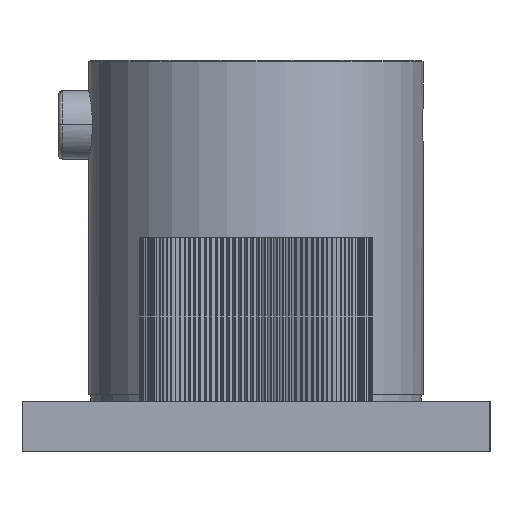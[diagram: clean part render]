
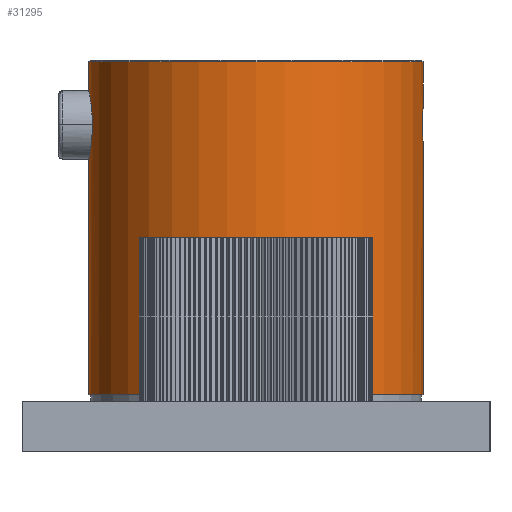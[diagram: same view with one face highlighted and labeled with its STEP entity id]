
A CAD part, left-side view. The second image highlights one B-rep face of the part: STEP entity #31295.
In plain terms, the highlighted cylindrical face has radius 25 mm (diameter 50 mm), a partial arc.
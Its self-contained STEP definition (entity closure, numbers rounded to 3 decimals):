
#9456=DIRECTION('',(0.,0.,1.));
#9457=VECTOR('',#9456,35.25);
#9458=CARTESIAN_POINT('',(0.,25.,78.6));
#9459=LINE('',#9458,#9457);
#9507=DIRECTION('',(0.,0.,1.));
#9508=VECTOR('',#9507,4.35);
#9509=CARTESIAN_POINT('',(0.,25.,124.05));
#9510=LINE('',#9509,#9508);
#9515=CARTESIAN_POINT('',(-5.1,24.474,118.95));
#9516=CARTESIAN_POINT('',(-5.1,24.474,119.082));
#9517=CARTESIAN_POINT('',(-5.09,24.476,119.347));
#9518=CARTESIAN_POINT('',(-5.043,24.486,119.742));
#9519=CARTESIAN_POINT('',(-4.966,24.502,120.132));
#9520=CARTESIAN_POINT('',(-4.859,24.523,120.517));
#9521=CARTESIAN_POINT('',(-4.721,24.55,120.893));
#9522=CARTESIAN_POINT('',(-4.554,24.582,121.258));
#9523=CARTESIAN_POINT('',(-4.358,24.618,121.609));
#9524=CARTESIAN_POINT('',(-4.134,24.656,121.945));
#9525=CARTESIAN_POINT('',(-3.885,24.697,122.263));
#9526=CARTESIAN_POINT('',(-3.61,24.739,122.56));
#9527=CARTESIAN_POINT('',(-3.313,24.78,122.834));
#9528=CARTESIAN_POINT('',(-2.996,24.821,123.084));
#9529=CARTESIAN_POINT('',(-2.66,24.859,123.308));
#9530=CARTESIAN_POINT('',(-2.309,24.894,123.503));
#9531=CARTESIAN_POINT('',(-1.943,24.925,123.671));
#9532=CARTESIAN_POINT('',(-1.568,24.952,123.808));
#9533=CARTESIAN_POINT('',(-1.183,24.973,123.916));
#9534=CARTESIAN_POINT('',(-0.793,24.988,
123.993));
#9535=CARTESIAN_POINT('',(-0.397,24.998,
124.04));
#9536=CARTESIAN_POINT('',(-0.133,25.,124.05));
#9537=CARTESIAN_POINT('',(0.,25.,124.05));
#9539=CARTESIAN_POINT('',(0.,0.,128.4));
#9540=DIRECTION('',(0.,0.,1.));
#9541=DIRECTION('',(0.,1.,0.));
#9542=AXIS2_PLACEMENT_3D('',#9539,#9540,#9541);
#9544=DIRECTION('',(0.,0.,1.));
#9545=VECTOR('',#9544,6.8);
#9546=CARTESIAN_POINT('',(0.,-25.,121.6));
#9547=LINE('',#9546,#9545);
#9548=CARTESIAN_POINT('',(0.,-25.,121.6));
#9549=CARTESIAN_POINT('',(-0.084,-25.,121.6));
#9550=CARTESIAN_POINT('',(-0.252,-24.999,
121.592));
#9551=CARTESIAN_POINT('',(-0.501,-24.995,
121.556));
#9552=CARTESIAN_POINT('',(-0.746,-24.989,
121.497));
#9553=CARTESIAN_POINT('',(-0.985,-24.981,
121.415));
#9554=CARTESIAN_POINT('',(-1.215,-24.971,
121.31));
#9555=CARTESIAN_POINT('',(-1.434,-24.959,
121.183));
#9556=CARTESIAN_POINT('',(-1.64,-24.946,
121.037));
#9557=CARTESIAN_POINT('',(-1.831,-24.933,
120.871));
#9558=CARTESIAN_POINT('',(-2.006,-24.92,
120.688));
#9559=CARTESIAN_POINT('',(-2.162,-24.906,
120.489));
#9560=CARTESIAN_POINT('',(-2.299,-24.894,
120.276));
#9561=CARTESIAN_POINT('',(-2.415,-24.883,
120.051));
#9562=CARTESIAN_POINT('',(-2.509,-24.874,
119.817));
#9563=CARTESIAN_POINT('',(-2.579,-24.867,
119.574));
#9564=CARTESIAN_POINT('',(-2.627,-24.862,
119.327));
#9565=CARTESIAN_POINT('',(-2.651,-24.859,
119.076));
#9566=CARTESIAN_POINT('',(-2.651,-24.859,
118.824));
#9567=CARTESIAN_POINT('',(-2.627,-24.862,
118.573));
#9568=CARTESIAN_POINT('',(-2.579,-24.867,
118.326));
#9569=CARTESIAN_POINT('',(-2.509,-24.874,
118.083));
#9570=CARTESIAN_POINT('',(-2.415,-24.883,
117.849));
#9571=CARTESIAN_POINT('',(-2.299,-24.894,
117.624));
#9572=CARTESIAN_POINT('',(-2.162,-24.906,
117.411));
#9573=CARTESIAN_POINT('',(-2.006,-24.92,
117.212));
#9574=CARTESIAN_POINT('',(-1.831,-24.933,
117.029));
#9575=CARTESIAN_POINT('',(-1.64,-24.946,
116.863));
#9576=CARTESIAN_POINT('',(-1.434,-24.959,
116.717));
#9577=CARTESIAN_POINT('',(-1.215,-24.971,
116.59));
#9578=CARTESIAN_POINT('',(-0.985,-24.981,
116.485));
#9579=CARTESIAN_POINT('',(-0.746,-24.989,
116.403));
#9580=CARTESIAN_POINT('',(-0.501,-24.995,
116.344));
#9581=CARTESIAN_POINT('',(-0.252,-24.999,
116.308));
#9582=CARTESIAN_POINT('',(-0.084,-25.,116.3));
#9583=CARTESIAN_POINT('',(0.,-25.,116.3));
#9585=DIRECTION('',(0.,0.,1.));
#9586=VECTOR('',#9585,37.7);
#9587=CARTESIAN_POINT('',(0.,-25.,78.6));
#9588=LINE('',#9587,#9586);
#9589=CARTESIAN_POINT('',(0.,0.,78.6));
#9590=DIRECTION('',(0.,0.,-1.));
#9591=DIRECTION('',(0.,-1.,0.));
#9592=AXIS2_PLACEMENT_3D('',#9589,#9590,#9591);
#9594=CARTESIAN_POINT('',(0.,25.,113.85));
#9595=CARTESIAN_POINT('',(-0.133,25.,113.85));
#9596=CARTESIAN_POINT('',(-0.397,24.998,
113.86));
#9597=CARTESIAN_POINT('',(-0.793,24.988,
113.907));
#9598=CARTESIAN_POINT('',(-1.183,24.973,113.984));
#9599=CARTESIAN_POINT('',(-1.568,24.952,114.092));
#9600=CARTESIAN_POINT('',(-1.943,24.925,114.229));
#9601=CARTESIAN_POINT('',(-2.309,24.894,114.397));
#9602=CARTESIAN_POINT('',(-2.66,24.859,114.592));
#9603=CARTESIAN_POINT('',(-2.996,24.821,114.816));
#9604=CARTESIAN_POINT('',(-3.313,24.78,115.066));
#9605=CARTESIAN_POINT('',(-3.61,24.739,115.34));
#9606=CARTESIAN_POINT('',(-3.885,24.697,115.637));
#9607=CARTESIAN_POINT('',(-4.134,24.656,115.955));
#9608=CARTESIAN_POINT('',(-4.358,24.618,116.291));
#9609=CARTESIAN_POINT('',(-4.554,24.582,116.642));
#9610=CARTESIAN_POINT('',(-4.721,24.55,117.007));
#9611=CARTESIAN_POINT('',(-4.859,24.523,117.383));
#9612=CARTESIAN_POINT('',(-4.966,24.502,117.768));
#9613=CARTESIAN_POINT('',(-5.043,24.486,118.158));
#9614=CARTESIAN_POINT('',(-5.09,24.476,118.553));
#9615=CARTESIAN_POINT('',(-5.1,24.474,118.818));
#9616=CARTESIAN_POINT('',(-5.1,24.474,118.95));
#10210=CARTESIAN_POINT('',(0.,-25.,128.4));
#10211=VERTEX_POINT('',#10210);
#10212=CARTESIAN_POINT('',(0.,25.,128.4));
#10213=VERTEX_POINT('',#10212);
#10214=CARTESIAN_POINT('',(0.,-25.,78.6));
#10215=CARTESIAN_POINT('',(0.,-25.,116.3));
#10216=VERTEX_POINT('',#10214);
#10217=VERTEX_POINT('',#10215);
#10218=CARTESIAN_POINT('',(0.,-25.,121.6));
#10219=VERTEX_POINT('',#10218);
#11806=VERTEX_POINT('',#9515);
#11807=VERTEX_POINT('',#9537);
#11808=VERTEX_POINT('',#9594);
#11818=CARTESIAN_POINT('',(0.,25.,78.6));
#11819=VERTEX_POINT('',#11818);
#31276=CARTESIAN_POINT('',(0.,0.,128.4));
#31277=DIRECTION('',(0.,0.,-1.));
#31278=DIRECTION('',(1.,0.,0.));
#31279=AXIS2_PLACEMENT_3D('',#31276,#31277,#31278);
#31280=CYLINDRICAL_SURFACE('',#31279,25.);
#31281=ORIENTED_EDGE('',*,*,#31257,.T.);
#31282=ORIENTED_EDGE('',*,*,#31240,.T.);
#31284=ORIENTED_EDGE('',*,*,#31283,.T.);
#31285=ORIENTED_EDGE('',*,*,#31236,.F.);
#31287=ORIENTED_EDGE('',*,*,#31286,.T.);
#31288=ORIENTED_EDGE('',*,*,#31232,.F.);
#31289=ORIENTED_EDGE('',*,*,#31204,.T.);
#31290=ORIENTED_EDGE('',*,*,#31229,.T.);
#31292=ORIENTED_EDGE('',*,*,#31291,.T.);
#31293=EDGE_LOOP('',(#31281,#31282,#31284,#31285,#31287,#31288,#31289,#31290,
#31292));
#31294=FACE_OUTER_BOUND('',#31293,.F.);
#9538=B_SPLINE_CURVE_WITH_KNOTS('',3,(#9515,#9516,#9517,#9518,#9519,#9520,#9521,
#9522,#9523,#9524,#9525,#9526,#9527,#9528,#9529,#9530,#9531,#9532,#9533,#9534,
#9535,#9536,#9537),.UNSPECIFIED.,.F.,.F.,(4,1,1,1,1,1,1,1,1,1,1,1,1,1,1,1,1,1,1,
1,4),(0.,0.05,0.1,0.15,0.2,0.25,0.3,0.35,0.4,0.45,0.5,
0.55,0.6,0.65,0.7,0.75,0.8,0.85,0.9,0.95,1.),.UNSPECIFIED.);
#9543=CIRCLE('',#9542,25.);
#9584=B_SPLINE_CURVE_WITH_KNOTS('',3,(#9548,#9549,#9550,#9551,#9552,#9553,#9554,
#9555,#9556,#9557,#9558,#9559,#9560,#9561,#9562,#9563,#9564,#9565,#9566,#9567,
#9568,#9569,#9570,#9571,#9572,#9573,#9574,#9575,#9576,#9577,#9578,#9579,#9580,
#9581,#9582,#9583),.UNSPECIFIED.,.F.,.F.,(4,1,1,1,1,1,1,1,1,1,1,1,1,1,1,1,1,1,1,
1,1,1,1,1,1,1,1,1,1,1,1,1,1,4),(0.,0.03,0.061,
0.091,0.121,0.152,0.182,
0.212,0.242,0.273,0.303,
0.333,0.364,0.394,0.424,
0.455,0.485,0.515,0.545,
0.576,0.606,0.636,0.667,
0.697,0.727,0.758,0.788,
0.818,0.848,0.879,0.909,
0.939,0.97,1.),.UNSPECIFIED.);
#9593=CIRCLE('',#9592,25.);
#9617=B_SPLINE_CURVE_WITH_KNOTS('',3,(#9594,#9595,#9596,#9597,#9598,#9599,#9600,
#9601,#9602,#9603,#9604,#9605,#9606,#9607,#9608,#9609,#9610,#9611,#9612,#9613,
#9614,#9615,#9616),.UNSPECIFIED.,.F.,.F.,(4,1,1,1,1,1,1,1,1,1,1,1,1,1,1,1,1,1,1,
1,4),(0.,0.05,0.1,0.15,0.2,0.25,0.3,0.35,0.4,0.45,0.5,
0.55,0.6,0.65,0.7,0.75,0.8,0.85,0.9,0.95,1.),.UNSPECIFIED.);
#31204=EDGE_CURVE('',#10216,#11819,#9593,.T.);
#31229=EDGE_CURVE('',#11819,#11808,#9459,.T.);
#31232=EDGE_CURVE('',#10216,#10217,#9588,.T.);
#31236=EDGE_CURVE('',#10219,#10211,#9547,.T.);
#31240=EDGE_CURVE('',#11807,#10213,#9510,.T.);
#31257=EDGE_CURVE('',#11806,#11807,#9538,.T.);
#31283=EDGE_CURVE('',#10213,#10211,#9543,.T.);
#31286=EDGE_CURVE('',#10219,#10217,#9584,.T.);
#31291=EDGE_CURVE('',#11808,#11806,#9617,.T.);
#31295=ADVANCED_FACE('',(#31294),#31280,.T.);
